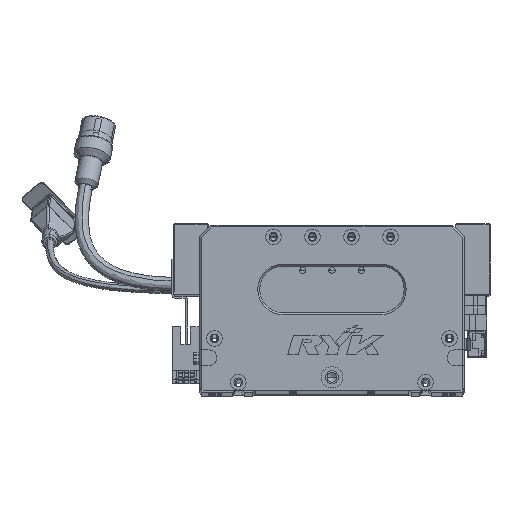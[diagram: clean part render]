
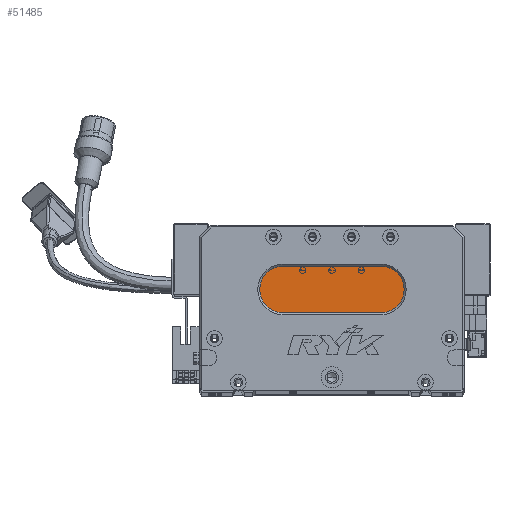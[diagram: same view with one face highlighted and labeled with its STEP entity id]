
A CAD part, top view. The second image highlights one B-rep face of the part: STEP entity #51485.
In plain terms, the highlighted planar face has unit normal (0, 0, 1) as drawn and (0, 0, -1) by its records, which use the part's own axes.
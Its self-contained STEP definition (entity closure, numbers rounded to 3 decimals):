
#784 = VERTEX_POINT ( 'NONE', #75569 ) ;
#9449 = DIRECTION ( 'NONE',  ( -1., 0., 0. ) ) ;
#10045 = CIRCLE ( 'NONE', #80563, 12. ) ;
#10673 = CARTESIAN_POINT ( 'NONE',  ( 93., 52., 13. ) ) ;
#11354 = EDGE_CURVE ( 'NONE', #65574, #784, #22016, .T. ) ;
#11797 = CARTESIAN_POINT ( 'NONE',  ( 93., 64., 13. ) ) ;
#11803 = DIRECTION ( 'NONE',  ( -1., 0., 0. ) ) ;
#12531 = VERTEX_POINT ( 'NONE', #60220 ) ;
#15640 = CARTESIAN_POINT ( 'NONE',  ( 93., 40., 13. ) ) ;
#22016 = CIRCLE ( 'NONE', #41266, 12. ) ;
#22097 = CARTESIAN_POINT ( 'NONE',  ( 93., 64., 13. ) ) ;
#23611 = CARTESIAN_POINT ( 'NONE',  ( 43., 52., 13. ) ) ;
#24299 = EDGE_CURVE ( 'NONE', #25758, #65574, #77123, .T. ) ;
#25758 = VERTEX_POINT ( 'NONE', #95046 ) ;
#32780 = DIRECTION ( 'NONE',  ( -1., 0., 0. ) ) ;
#33377 = DIRECTION ( 'NONE',  ( 0., 0., -1. ) ) ;
#34403 = CIRCLE ( 'NONE', #65369, 12. ) ;
#36963 = ORIENTED_EDGE ( 'NONE', *, *, #67482, .T. ) ;
#40155 = DIRECTION ( 'NONE',  ( -1., 0., 0. ) ) ;
#40254 = ORIENTED_EDGE ( 'NONE', *, *, #24299, .T. ) ;
#40642 = CARTESIAN_POINT ( 'NONE',  ( 93., 52., 13. ) ) ;
#41266 = AXIS2_PLACEMENT_3D ( 'NONE', #47578, #54962, #32780 ) ;
#42938 = VECTOR ( 'NONE', #51881, 1000. ) ;
#44068 = EDGE_CURVE ( 'NONE', #93728, #25758, #34403, .T. ) ;
#45102 = DIRECTION ( 'NONE',  ( -1., 0., 0. ) ) ;
#47578 = CARTESIAN_POINT ( 'NONE',  ( 43., 52., 13. ) ) ;
#50707 = EDGE_CURVE ( 'NONE', #784, #12531, #10045, .T. ) ;
#51364 = ORIENTED_EDGE ( 'NONE', *, *, #50707, .T. ) ;
#51485 = ADVANCED_FACE ( 'NONE', ( #83321 ), #84428, .T. ) ;
#51881 = DIRECTION ( 'NONE',  ( 1., 0., 0. ) ) ;
#54962 = DIRECTION ( 'NONE',  ( 0., 0., -1. ) ) ;
#55407 = DIRECTION ( 'NONE',  ( 0., 0., -1. ) ) ;
#56772 = LINE ( 'NONE', #22097, #42938 ) ;
#60220 = CARTESIAN_POINT ( 'NONE',  ( 43., 64., 13. ) ) ;
#65369 = AXIS2_PLACEMENT_3D ( 'NONE', #40642, #55407, #11803 ) ;
#65574 = VERTEX_POINT ( 'NONE', #65696 ) ;
#65696 = CARTESIAN_POINT ( 'NONE',  ( 43., 40., 13. ) ) ;
#67482 = EDGE_CURVE ( 'NONE', #12531, #93728, #56772, .T. ) ;
#68489 = ORIENTED_EDGE ( 'NONE', *, *, #11354, .T. ) ;
#70203 = VECTOR ( 'NONE', #45102, 1000. ) ;
#70619 = EDGE_LOOP ( 'NONE', ( #89199, #40254, #68489, #51364, #36963 ) ) ;
#74933 = DIRECTION ( 'NONE',  ( 0., 0., -1. ) ) ;
#75569 = CARTESIAN_POINT ( 'NONE',  ( 31., 52., 13. ) ) ;
#77123 = LINE ( 'NONE', #15640, #70203 ) ;
#80563 = AXIS2_PLACEMENT_3D ( 'NONE', #23611, #74933, #9449 ) ;
#81802 = AXIS2_PLACEMENT_3D ( 'NONE', #10673, #33377, #40155 ) ;
#83321 = FACE_OUTER_BOUND ( 'NONE', #70619, .T. ) ;
#84428 = PLANE ( 'NONE',  #81802 ) ;
#89199 = ORIENTED_EDGE ( 'NONE', *, *, #44068, .T. ) ;
#93728 = VERTEX_POINT ( 'NONE', #11797 ) ;
#95046 = CARTESIAN_POINT ( 'NONE',  ( 93., 40., 13. ) ) ;
